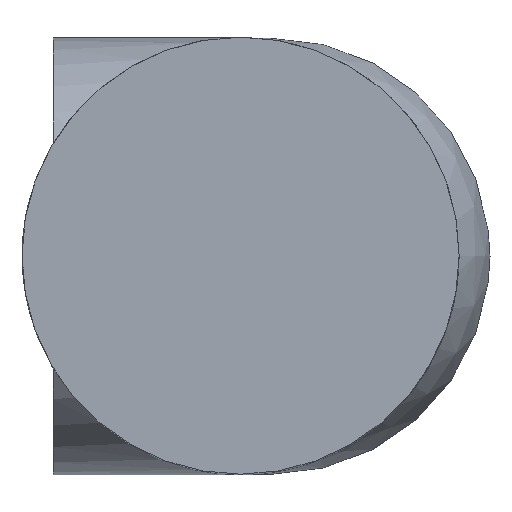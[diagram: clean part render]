
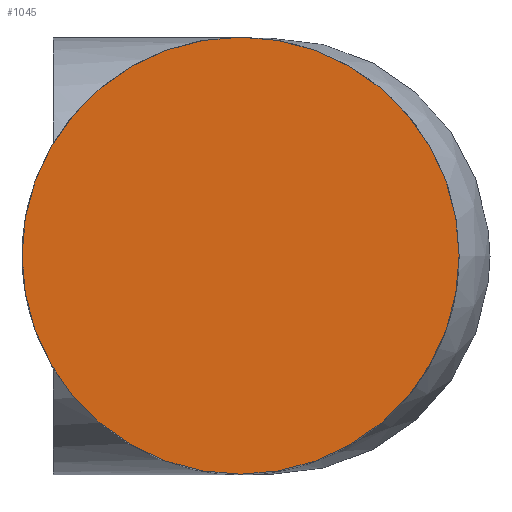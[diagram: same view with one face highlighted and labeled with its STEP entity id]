
A CAD part, top view. The second image highlights one B-rep face of the part: STEP entity #1045.
In plain terms, the highlighted planar face has unit normal (0, 0, 1).
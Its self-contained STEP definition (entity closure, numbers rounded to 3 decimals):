
#79 = CYLINDRICAL_SURFACE('',#80,2.1);
#80 = AXIS2_PLACEMENT_3D('',#81,#82,#83);
#81 = CARTESIAN_POINT('',(0.,5.,-7.));
#82 = DIRECTION('',(0.,0.,1.));
#83 = DIRECTION('',(1.,0.,-0.));
#396 = VERTEX_POINT('',#397);
#397 = CARTESIAN_POINT('',(2.1,5.,-3.55));
#418 = EDGE_CURVE('',#396,#396,#419,.T.);
#419 = SURFACE_CURVE('',#420,(#425,#432),.PCURVE_S1.);
#420 = CIRCLE('',#421,2.1);
#421 = AXIS2_PLACEMENT_3D('',#422,#423,#424);
#422 = CARTESIAN_POINT('',(0.,5.,-3.55));
#423 = DIRECTION('',(0.,0.,1.));
#424 = DIRECTION('',(1.,0.,-0.));
#425 = PCURVE('',#79,#426);
#426 = DEFINITIONAL_REPRESENTATION('',(#427),#431);
#427 = LINE('',#428,#429);
#428 = CARTESIAN_POINT('',(0.,3.45));
#429 = VECTOR('',#430,1.);
#430 = DIRECTION('',(1.,0.));
#431 = ( GEOMETRIC_REPRESENTATION_CONTEXT(2) 
PARAMETRIC_REPRESENTATION_CONTEXT() REPRESENTATION_CONTEXT('2D SPACE',''
  ) );
#432 = PCURVE('',#433,#438);
#433 = PLANE('',#434);
#434 = AXIS2_PLACEMENT_3D('',#435,#436,#437);
#435 = CARTESIAN_POINT('',(0.,5.,-3.55));
#436 = DIRECTION('',(0.,0.,1.));
#437 = DIRECTION('',(1.,0.,-0.));
#438 = DEFINITIONAL_REPRESENTATION('',(#439),#443);
#439 = CIRCLE('',#440,2.1);
#440 = AXIS2_PLACEMENT_2D('',#441,#442);
#441 = CARTESIAN_POINT('',(0.,0.));
#442 = DIRECTION('',(1.,0.));
#443 = ( GEOMETRIC_REPRESENTATION_CONTEXT(2) 
PARAMETRIC_REPRESENTATION_CONTEXT() REPRESENTATION_CONTEXT('2D SPACE',''
  ) );
#1045 = ADVANCED_FACE('',(#1046),#433,.T.);
#1046 = FACE_BOUND('',#1047,.T.);
#1047 = EDGE_LOOP('',(#1048));
#1048 = ORIENTED_EDGE('',*,*,#418,.T.);
